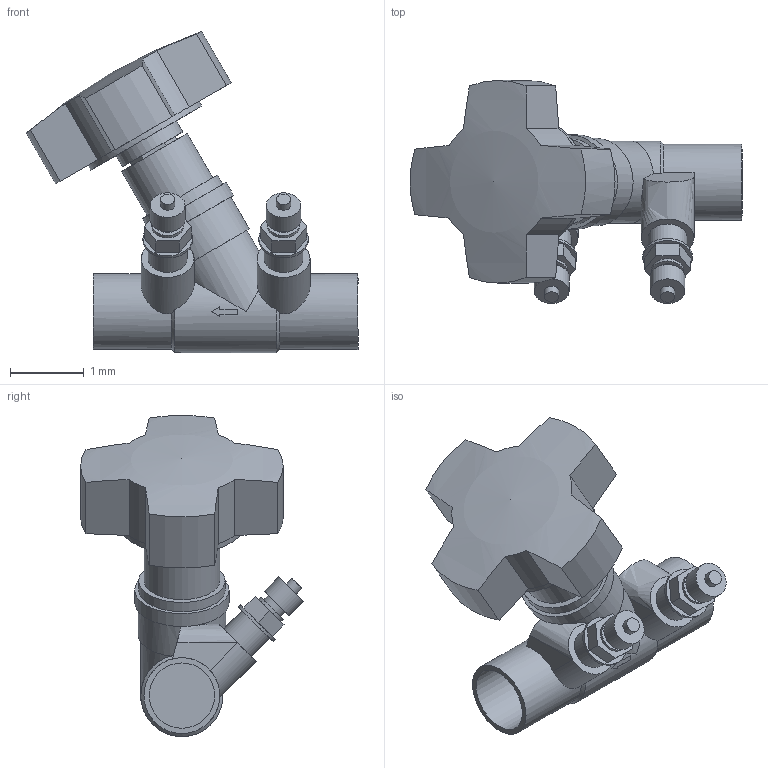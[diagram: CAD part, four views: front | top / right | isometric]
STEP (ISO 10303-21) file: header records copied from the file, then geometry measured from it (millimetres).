
FILE_DESCRIPTION(('Open CASCADE Model'),'2;1');
FILE_NAME('Open CASCADE Shape Model','2021-09-29T13:57:00',('Author'),( 'Open CASCADE'),'Open CASCADE STEP processor 7.3','Open CASCADE 7.3' ,'Unknown');
FILE_SCHEMA(('AUTOMOTIVE_DESIGN { 1 0 10303 214 1 1 1 1 }'));
Length unit declared in the file: millimetre
Products named in the file (1): Open CASCADE STEP translator 7.3 1
Bounding box: 4.49 x 3.01 x 4.34 mm (x, y, z)
Volume: 9.4 mm3; surface area: 48.4 mm2
Topology: 1 solids, 1 shells, 126 faces, 291 edges, 190 vertices
Faces by surface type: plane 86, cylinder 35, cone 2, extrusion 2, sphere 1
Full cylindrical faces by diameter (mm): 0.195 x2, 0.32 x2, 0.43 x2, 0.47 x2, 0.525 x2, 0.67 x2, 0.883 x2, 0.94 x1, 1.023 x1, 1.025 x2, 1.171 x1, 1.185 x1, 1.275 x1, 1.737 x1
Entity records: 9042 total; most frequent: CARTESIAN_POINT 3237, DIRECTION 1080, ORIENTED_EDGE 580, PCURVE 580, DEFINITIONAL_REPRESENTATION 580, VECTOR 554, LINE 552, EDGE_CURVE 290
